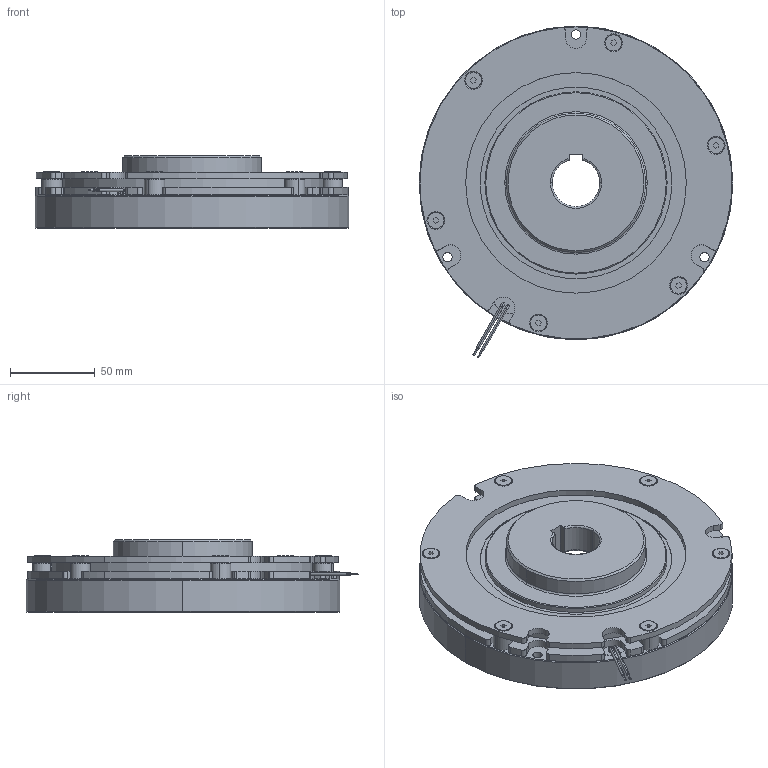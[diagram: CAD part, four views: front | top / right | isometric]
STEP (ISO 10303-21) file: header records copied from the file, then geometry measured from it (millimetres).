
FILE_DESCRIPTION (( 'STEP AP214' ), '1' );
FILE_NAME ('ÌÞÚ°·_BXR-16-20_B.STEP', '2017-08-08T10:57:16', ( 'MIKI' ), ( '' ), 'SwSTEP 2.0', 'SolidWorks 2012', '' );
FILE_SCHEMA (( 'AUTOMOTIVE_DESIGN' ));
Length unit declared in the file: millimetre
Products named in the file (1): 枌痚愷BXR-16-20_B
Bounding box: 185 x 195.69 x 42.6 mm (x, y, z)
Volume: 652754.6 mm3; surface area: 150988.4 mm2
Topology: 1 solids, 7 shells, 461 faces, 1110 edges, 712 vertices
Faces by surface type: cylinder 232, plane 130, cone 85, torus 14
Entity records: 18819 total; most frequent: DIRECTION 2616, CARTESIAN_POINT 2322, ORIENTED_EDGE 2220, EDGE_CURVE 1110, AXIS2_PLACEMENT_3D 1050, VERTEX_POINT 712, CIRCLE 588, EDGE_LOOP 560
